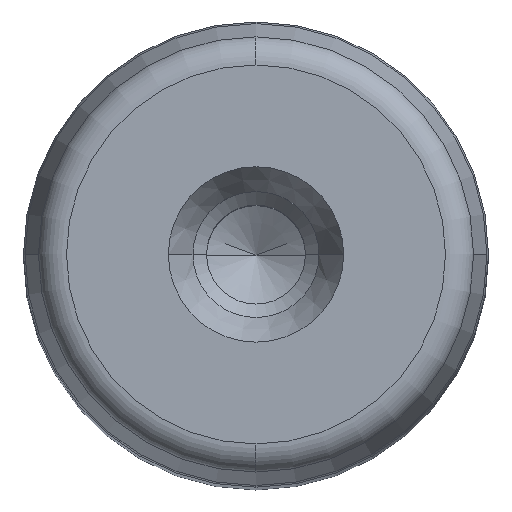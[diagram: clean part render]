
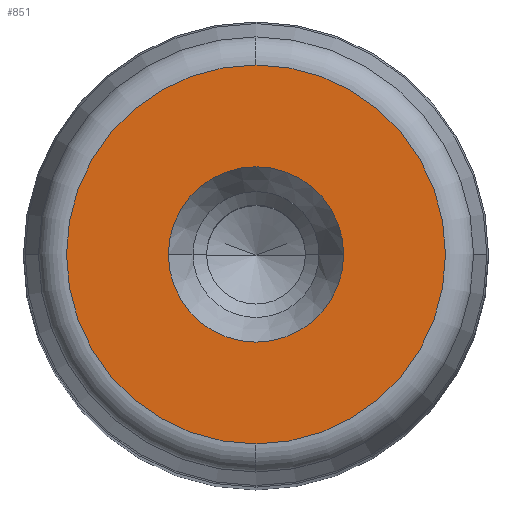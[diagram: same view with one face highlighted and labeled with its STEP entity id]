
A CAD part, top view. The second image highlights one B-rep face of the part: STEP entity #851.
In plain terms, the highlighted planar face has unit normal (0, 0, 1) as drawn and (0, 1, 0) by its records, which use the part's own axes.
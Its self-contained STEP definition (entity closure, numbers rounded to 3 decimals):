
#281=CARTESIAN_POINT('',(9.05,180.0,0.0));
#282=VERTEX_POINT('',#281);
#289=CARTESIAN_POINT('',(-9.05,180.0,0.));
#290=VERTEX_POINT('',#289);
#291=CARTESIAN_POINT('',(0.0,180.0,0.0));
#292=DIRECTION('',(0.0,1.0,0.0));
#293=DIRECTION('',(1.0,0.0,0.0));
#294=AXIS2_PLACEMENT_3D('',#291,#292,#293);
#295=CIRCLE('',#294,9.05);
#296=EDGE_CURVE('',#282,#290,#295,.T.);
#313=CARTESIAN_POINT('',(0.0,180.0,19.554));
#314=VERTEX_POINT('',#313);
#324=CARTESIAN_POINT('',(0.,180.0,-19.554));
#325=VERTEX_POINT('',#324);
#326=CARTESIAN_POINT('',(0.0,180.0,0.0));
#327=DIRECTION('',(0.0,1.0,0.0));
#328=DIRECTION('',(1.0,0.0,0.0));
#329=AXIS2_PLACEMENT_3D('',#326,#327,#328);
#330=CIRCLE('',#329,19.554);
#331=EDGE_CURVE('',#325,#314,#330,.T.);
#812=CARTESIAN_POINT('',(19.554,180.0,0.0));
#813=VERTEX_POINT('',#812);
#814=CARTESIAN_POINT('',(0.0,180.0,0.0));
#815=DIRECTION('',(0.0,1.0,0.0));
#816=DIRECTION('',(1.0,0.0,0.0));
#817=AXIS2_PLACEMENT_3D('',#814,#815,#816);
#818=CIRCLE('',#817,19.554);
#819=EDGE_CURVE('',#813,#325,#818,.T.);
#821=CARTESIAN_POINT('',(0.0,180.0,0.0));
#822=DIRECTION('',(0.0,1.0,0.0));
#823=DIRECTION('',(1.0,0.0,0.0));
#824=AXIS2_PLACEMENT_3D('',#821,#822,#823);
#825=CIRCLE('',#824,19.554);
#826=EDGE_CURVE('',#314,#813,#825,.T.);
#831=CARTESIAN_POINT('',(-21.51,180.0,-21.51));
#832=DIRECTION('',(0.0,1.0,0.0));
#833=DIRECTION('',(0.0,0.0,1.0));
#834=AXIS2_PLACEMENT_3D('',#831,#832,#833);
#835=PLANE('',#834);
#836=ORIENTED_EDGE('',*,*,#819,.T.);
#837=ORIENTED_EDGE('',*,*,#331,.T.);
#838=ORIENTED_EDGE('',*,*,#826,.T.);
#839=EDGE_LOOP('',(#836,#837,#838));
#840=FACE_OUTER_BOUND('',#839,.T.);
#841=ORIENTED_EDGE('',*,*,#296,.F.);
#842=CARTESIAN_POINT('',(0.0,180.0,0.0));
#843=DIRECTION('',(0.0,1.0,0.0));
#844=DIRECTION('',(1.0,0.0,0.0));
#845=AXIS2_PLACEMENT_3D('',#842,#843,#844);
#846=CIRCLE('',#845,9.05);
#847=EDGE_CURVE('',#290,#282,#846,.T.);
#848=ORIENTED_EDGE('',*,*,#847,.F.);
#849=EDGE_LOOP('',(#841,#848));
#850=FACE_BOUND('',#849,.T.);
#851=ADVANCED_FACE('',(#840,#850),#835,.T.);
